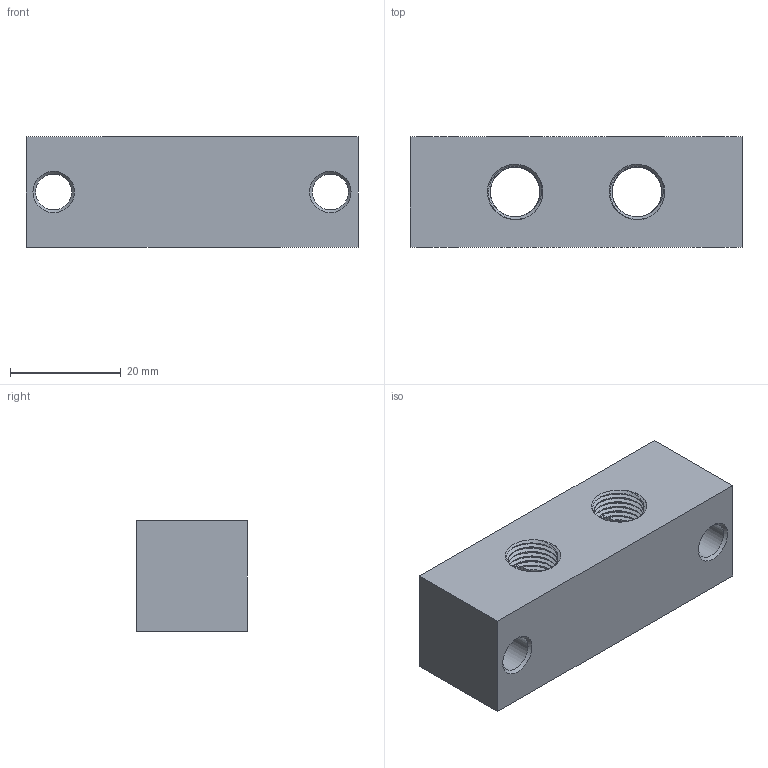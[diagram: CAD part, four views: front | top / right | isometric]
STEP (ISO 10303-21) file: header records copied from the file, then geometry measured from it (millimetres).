
FILE_DESCRIPTION (( 'STEP AP214' ), '1' );
FILE_NAME ('1460_01_02_ASL-02_002.STEP', '2026-01-26T14:04:05', ( '' ), ( '' ), 'SwSTEP 2.0', 'SolidWorks 2022', '' );
FILE_SCHEMA (( 'AUTOMOTIVE_DESIGN' ));
Length unit declared in the file: millimetre
Products named in the file (1): 1460_01_02_ASL-02_002
Bounding box: 60 x 20 x 20 mm (x, y, z)
Volume: 18976.9 mm3; surface area: 7969.5 mm2
Topology: 1 solids, 1 shells, 80 faces, 248 edges, 166 vertices
Faces by surface type: bspline 44, cylinder 14, plane 12, cone 10
Full cylindrical faces by diameter (mm): 6.5 x2
Entity records: 18906 total; most frequent: CARTESIAN_POINT 17275, ORIENTED_EDGE 480, EDGE_CURVE 240, VERTEX_POINT 164, DIRECTION 150, EDGE_LOOP 98, B_SPLINE_CURVE_WITH_KNOTS 98, FACE_OUTER_BOUND 82
